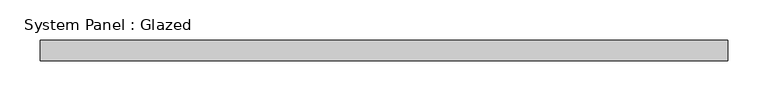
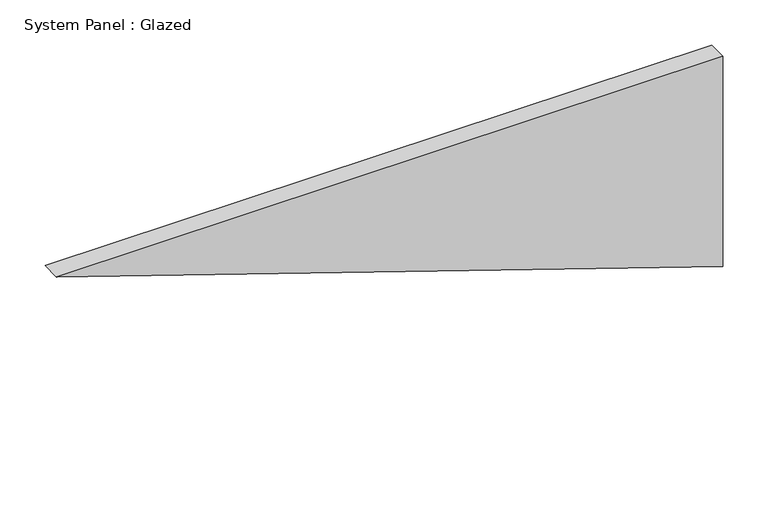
"""IFC4 building model written with IfcOpenShell, lengths in millimetres: plate geometry, System Panel : Glazed."""

import ifcopenshell
import ifcopenshell.guid

model = None  # the IFC model being written
_history = None  # IfcOwnerHistory: only IFC2X3 demands one
_inside = {}  # id of a spatial element -> (the spatial element, [elements in it])
_under = {}  # id of a project, library or spatial element -> (it, [spatial elements below it])
_declared = {}  # id of a project -> (the project, [libraries it declares])
_typed = {}  # id of a type object -> (the type object, [elements of that type])
_made_of = {}  # id of a material, layer set ... -> (it, [elements and type objects made of it])


def new_model(schema):
    """Start an empty IFC model of exactly this schema.

    Asked for "IFC4X3", IfcOpenShell would pick the latest addendum, in which some entities
    have other attributes; the version numbers below select the first issue.
    IFC2X3 requires an IfcOwnerHistory on every rooted entity: one is made here for all.
    """
    global model, _history
    if schema == "IFC4X3":
        model = ifcopenshell.file(schema_version=(4, 3, 0, 0))
    else:
        model = ifcopenshell.file(schema=schema)
    _inside.clear()
    _under.clear()
    _declared.clear()
    _typed.clear()
    _made_of.clear()
    _history = None
    if model.schema == "IFC2X3":
        org = make("IfcOrganization", Name="unknown")
        user = make(
            "IfcPersonAndOrganization",
            ThePerson=make("IfcPerson", FamilyName="unknown"),
            TheOrganization=org,
        )
        app = make(
            "IfcApplication",
            ApplicationDeveloper=org,
            Version="unknown",
            ApplicationFullName="unknown",
            ApplicationIdentifier="unknown",
        )
        _history = make(
            "IfcOwnerHistory",
            OwningUser=user,
            OwningApplication=app,
            ChangeAction="ADDED",
            CreationDate=0,
        )
    return model


def make(cls, **values):
    """One entity of the class cls with the attributes given. An attribute that is None is left unset."""
    return model.create_entity(
        cls, **{name: value for name, value in values.items() if value is not None}
    )


def rooted(cls, **values):
    """An entity with a GlobalId (a new one), such as an element, a storey or a relation."""
    return make(cls, GlobalId=ifcopenshell.guid.new(), OwnerHistory=_history, **values)


def si_unit(unit_type, name, prefix=None):
    """IfcSIUnit, for example si_unit("LENGTHUNIT", "METRE", prefix="MILLI")."""
    return make("IfcSIUnit", UnitType=unit_type, Prefix=prefix, Name=name)


def assignment(units):
    """IfcUnitAssignment: the units of a project."""
    return None if units is None else make("IfcUnitAssignment", Units=units)


def point(xyz):
    """IfcCartesianPoint."""
    return None if xyz is None else make("IfcCartesianPoint", Coordinates=xyz)


def direction(xyz):
    """IfcDirection."""
    return None if xyz is None else make("IfcDirection", DirectionRatios=xyz)


def frame(location, z_axis=None, x_axis=None):
    """IfcAxis2Placement3D, a coordinate frame: its origin and axes. An axis left out is left unset."""
    return make(
        "IfcAxis2Placement3D",
        Location=point(location),
        Axis=direction(z_axis),
        RefDirection=direction(x_axis),
    )


def origin():
    """The frame at (0, 0, 0) with its axes left unset."""
    return frame((0.0, 0.0, 0.0))


def place(relative_to, where):
    """IfcLocalPlacement: puts the frame where relative to a parent placement (None: the world)."""
    return make(
        "IfcLocalPlacement", PlacementRelTo=relative_to, RelativePlacement=where
    )


def context(
    kind, dimensions, precision=None, world=None, true_north=None, identifier=None
):
    """IfcGeometricRepresentationContext, for example the 3D "Model" context."""
    return make(
        "IfcGeometricRepresentationContext",
        ContextIdentifier=identifier,
        ContextType=kind,
        CoordinateSpaceDimension=dimensions,
        Precision=precision,
        WorldCoordinateSystem=world,
        TrueNorth=true_north,
    )


def project(units=None, contexts=None):
    """IfcProject with its units and contexts."""
    return rooted(
        "IfcProject",
        Name="project",
        RepresentationContexts=contexts,
        UnitsInContext=assignment(units),
    )


def spatial(cls, under=None, at=None, **own):
    """A site, building, storey or space (cls), placed at a placement, below another one or the project."""
    s = rooted(cls, ObjectPlacement=at, **own)
    if under is not None:
        _under.setdefault(under.id(), (under, []))[1].append(s)
    return s


def polyline(points):
    """IfcPolyline through the points."""
    return make("IfcPolyline", Points=[point(p) for p in points])


def outline(outer, holes=None, kind="AREA"):
    """IfcArbitraryClosedProfileDef: a profile drawn as a closed curve; with holes, ...WithVoids."""
    if holes is None:
        return make("IfcArbitraryClosedProfileDef", ProfileType=kind, OuterCurve=outer)
    return make(
        "IfcArbitraryProfileDefWithVoids",
        ProfileType=kind,
        OuterCurve=outer,
        InnerCurves=holes,
    )


def extrude(swept, where, along, depth):
    """IfcExtrudedAreaSolid: the profile swept, set in the frame where, extruded along a direction by depth."""
    return make(
        "IfcExtrudedAreaSolid",
        SweptArea=swept,
        Position=where,
        ExtrudedDirection=direction(along),
        Depth=depth,
    )


def shape(context_of_items, identifier, shape_type, items):
    """IfcShapeRepresentation: the items that make up one representation, for example the "Body"."""
    return make(
        "IfcShapeRepresentation",
        ContextOfItems=context_of_items,
        RepresentationIdentifier=identifier,
        RepresentationType=shape_type,
        Items=items,
    )


def source(mapping_origin, context_of_items, identifier, shape_type, items):
    """IfcRepresentationMap: a shape defined once, which mapped items show again and again."""
    return make(
        "IfcRepresentationMap",
        MappingOrigin=mapping_origin,
        MappedRepresentation=shape(context_of_items, identifier, shape_type, items),
    )


def transform(
    local_origin,
    x_axis=None,
    y_axis=None,
    z_axis=None,
    scale=None,
    scale2=None,
    scale3=None,
    uniform=True,
):
    """IfcCartesianTransformationOperator3D, or its non-uniform kind. x_axis, y_axis, z_axis: its Axis1, 2, 3."""
    if uniform:
        return make(
            "IfcCartesianTransformationOperator3D",
            Axis1=direction(x_axis),
            Axis2=direction(y_axis),
            LocalOrigin=point(local_origin),
            Scale=scale,
            Axis3=direction(z_axis),
        )
    return make(
        "IfcCartesianTransformationOperator3DnonUniform",
        Axis1=direction(x_axis),
        Axis2=direction(y_axis),
        LocalOrigin=point(local_origin),
        Scale=scale,
        Axis3=direction(z_axis),
        Scale2=scale2,
        Scale3=scale3,
    )


def mapped(mapping_source, mapping_target):
    """IfcMappedItem: shows the shape of a source again, moved by a transform."""
    return make(
        "IfcMappedItem", MappingSource=mapping_source, MappingTarget=mapping_target
    )


def made_of(thing, what):
    """Note that an element or type object is made of a material, layer set ...; save() writes the relation."""
    if what is not None:
        _made_of.setdefault(what.id(), (what, []))[1].append(thing)
    return thing


def element(
    cls,
    number,
    at=None,
    inside=None,
    cuts=None,
    type_object=None,
    material=None,
    context=None,
    identifier="Body",
    shape_type=None,
    held_by="IfcProductDefinitionShape",
    body=None,
    shapes=None,
    **own,
):
    """One element of the class cls, such as IfcWall. Its Tag is "e" and its number.

    at: its placement. inside: the storey or other place that contains it. cuts: it is an
    opening in that element (IfcRelVoidsElement). A single representation is given by context,
    identifier, shape_type and body (its items); several are given by shapes. held_by: the class
    of the entity that holds the representations. save() writes the other relations.
    """
    e = rooted(cls, Tag="e%d" % number, ObjectPlacement=at, **own)
    if body is not None:
        shapes = [shape(context, identifier, shape_type, body)]
    if shapes is not None:
        e.Representation = make(held_by, Representations=shapes)
    if inside is not None:
        _inside.setdefault(inside.id(), (inside, []))[1].append(e)
    if cuts is not None:
        rooted(
            "IfcRelVoidsElement", RelatingBuildingElement=cuts, RelatedOpeningElement=e
        )
    if type_object is not None:
        _typed.setdefault(type_object.id(), (type_object, []))[1].append(e)
    return made_of(e, material)


def aggregate(whole, parts):
    """IfcRelAggregates: a whole, such as a stair, and the parts it consists of."""
    return rooted("IfcRelAggregates", RelatingObject=whole, RelatedObjects=parts)


def save(model, path):
    """Write the relations noted so far, then the file.

    IfcRelAggregates (storeys below a building ...), IfcRelContainedInSpatialStructure (elements
    in a storey), IfcRelDefinesByType, IfcRelAssociatesMaterial and IfcRelDeclares: one each for
    every whole, place, type object, material and project.
    """
    for whole, parts in _under.values():
        aggregate(whole, parts)
    for where, things in _inside.values():
        rooted(
            "IfcRelContainedInSpatialStructure",
            RelatedElements=things,
            RelatingStructure=where,
        )
    for kind, things in _typed.values():
        rooted("IfcRelDefinesByType", RelatedObjects=things, RelatingType=kind)
    for what, things in _made_of.values():
        rooted("IfcRelAssociatesMaterial", RelatedObjects=things, RelatingMaterial=what)
    for by, libraries in _declared.values():
        rooted("IfcRelDeclares", RelatingContext=by, RelatedDefinitions=libraries)
    model.write(path)


def system_panel_glazed_10735cc6(model_context):
    return source(origin(), model_context, "Body", "SweptSolid", [
        extrude(outline(polyline([(284.8777126, -427.3165689), (0.0, 427.3165689), (284.8777126, 427.3165689), (284.8777126, -427.3165689)])), frame((0.0, -44.45, 0.0), z_axis=(0.0, 1.0, 0.0), x_axis=(0.0, 0.0, 1.0)), (0.0, 0.0, 1.0), 25.4),
    ])


if __name__ == "__main__":
    model = new_model("IFC4")
    model_context = context("Model", 3, world=origin())
    ifc_project = project(units=[si_unit("LENGTHUNIT", "METRE", prefix="MILLI")], contexts=[model_context])
    site = spatial("IfcSite", under=ifc_project)
    building = spatial("IfcBuilding", under=site)
    placement = place(None, origin())
    system_panel_glazed_shape = system_panel_glazed_10735cc6(model_context)
    element("IfcPlate", 1, ObjectType="System Panel : Glazed", at=placement, inside=building, context=model_context, shape_type="MappedRepresentation", body=[
        mapped(system_panel_glazed_shape, transform((0.0, 0.0, 0.0), x_axis=(1.0, 0.0, 0.0), y_axis=(0.0, 1.0, 0.0), z_axis=(0.0, 0.0, 1.0))),
    ])
    save(model, "model.ifc")
